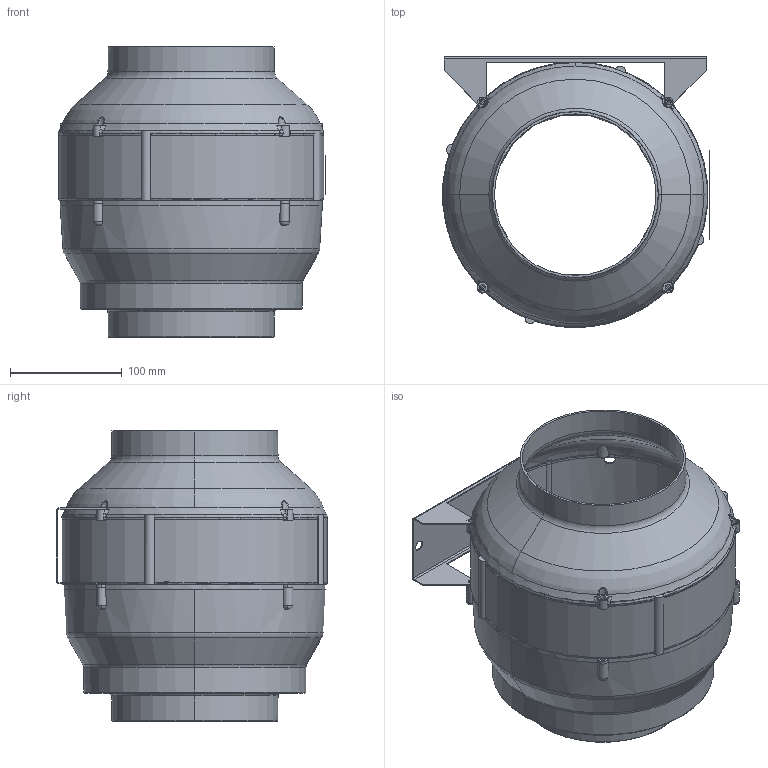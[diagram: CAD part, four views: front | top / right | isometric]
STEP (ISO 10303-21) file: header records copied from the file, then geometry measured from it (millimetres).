
FILE_DESCRIPTION (( 'STEP AP203' ), '1' );
FILE_NAME ('122228-01_EL150LE2M01.STEP', '2013-10-07T07:59:15', ( '' ), ( '' ), 'SwSTEP 2.0', 'SolidWorks 2012', '' );
FILE_SCHEMA (( 'CONFIG_CONTROL_DESIGN' ));
Length unit declared in the file: millimetre
Products named in the file (1): 122228-01_EL150LE2M01
Bounding box: 238.88 x 243.06 x 260 mm (x, y, z)
Surface area: 436759.1 mm2 (no closed solid volume)
Topology: 0 solids, 21 shells, 383 faces, 1412 edges, 1021 vertices
Faces by surface type: cylinder 113, plane 75, torus 72, cone 65, bspline 58
Entity records: 20811 total; most frequent: CARTESIAN_POINT 9489, ORIENTED_EDGE 2286, DIRECTION 2212, EDGE_CURVE 1412, VERTEX_POINT 1021, AXIS2_PLACEMENT_3D 906, CIRCLE 580, B_SPLINE_CURVE_WITH_KNOTS 432
